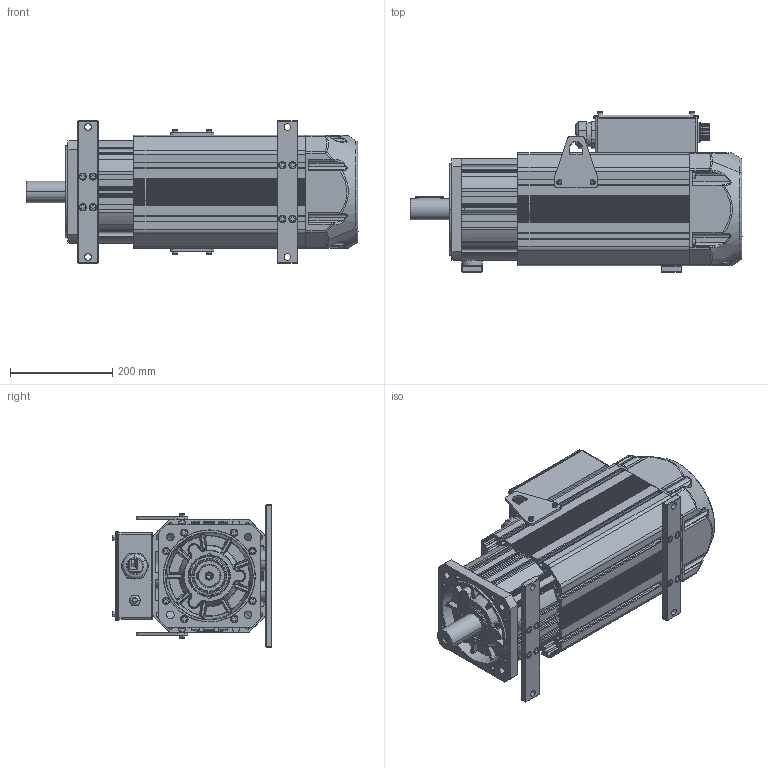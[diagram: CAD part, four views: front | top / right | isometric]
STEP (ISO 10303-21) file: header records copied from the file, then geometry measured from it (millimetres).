
FILE_DESCRIPTION((''),'2;1');
FILE_NAME('200N___SW0001','2025-08-25T09:04:17',('0109502'),(''),'CREO PARAMETRIC BY PTC INC, 2019080','CREO PARAMETRIC BY PTC INC, 2019080','');
FILE_SCHEMA(('CONFIG_CONTROL_DESIGN'));
Products named in the file (1): 200N___SW0001
Bounding box: 649 x 312.5 x 278.25 mm (x, y, z)
Surface area: 1951481.5 mm2 (no closed solid volume)
Topology: 0 solids, 207 shells, 3194 faces, 11359 edges, 8143 vertices
Faces by surface type: plane 1418, cylinder 1107, torus 256, bspline 201, cone 180, sphere 32
Entity records: 136371 total; most frequent: CARTESIAN_POINT 39581, DIRECTION 20530, ORIENTED_EDGE 18293, EDGE_CURVE 11339, VERTEX_POINT 8143, AXIS2_PLACEMENT_3D 7010, VECTOR 6510, LINE 6510
